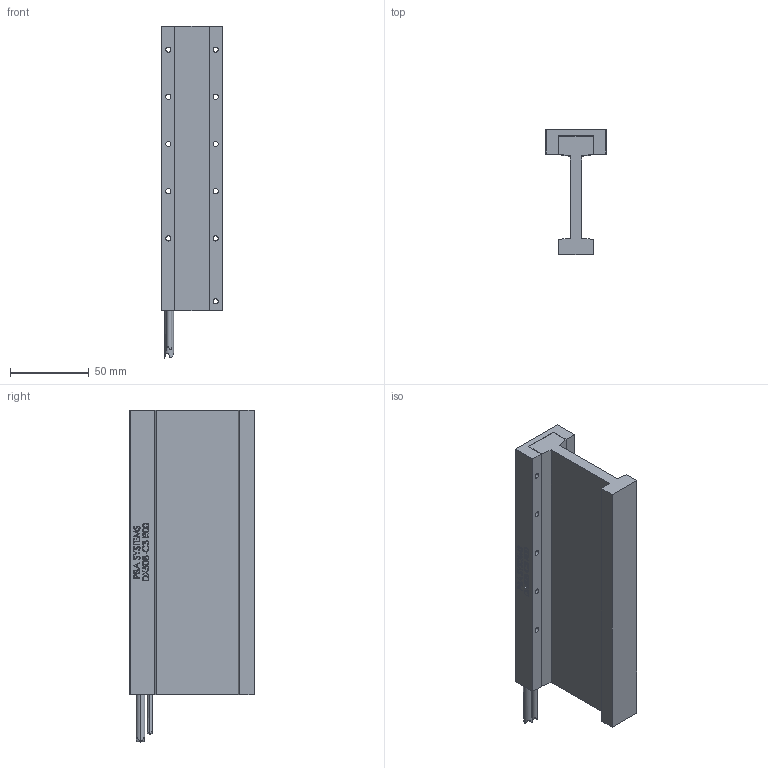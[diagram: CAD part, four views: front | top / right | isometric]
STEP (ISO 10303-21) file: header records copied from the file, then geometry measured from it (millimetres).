
FILE_DESCRIPTION (( 'STEP AP203' ), '1' );
FILE_NAME ('DX50B-C3-000.STEP', '2015-05-28T02:38:01', ( 'PBAsystems' ), ( '' ), 'SwSTEP 2.0', 'SolidWorks 2013', '' );
FILE_SCHEMA (( 'CONFIG_CONTROL_DESIGN' ));
Length unit declared in the file: millimetre
Products named in the file (5): CBL_MTR_HALL_SS_5C_SA (#2935-1); DX50B-C3-000; DX50B-C3-001_CUSTOMER; DX50B-CX-002_C3; CBL_MTR_PWR_SS_7C2C_SA (#2936-1)
Assembly tree (4 placements, depth 2):
  DX50B-C3-000
    DX50B-C3-001_CUSTOMER
    DX50B-CX-002_C3
    CBL_MTR_PWR_SS_7C2C_SA (#2936-1)
    CBL_MTR_HALL_SS_5C_SA (#2935-1)
Bounding box: 38.2 x 79.15 x 211 mm (x, y, z)
Volume: 215851.1 mm3; surface area: 68943.3 mm2
Topology: 4 solids, 5 shells, 680 faces, 1804 edges, 1197 vertices
Faces by surface type: plane 364, bspline 280, cylinder 34, cone 2
Entity records: 37075 total; most frequent: CARTESIAN_POINT 21502, ORIENTED_EDGE 3604, DIRECTION 2112, EDGE_CURVE 1802, VERTEX_POINT 1197, LINE 1178, VECTOR 1178, EDGE_LOOP 767
